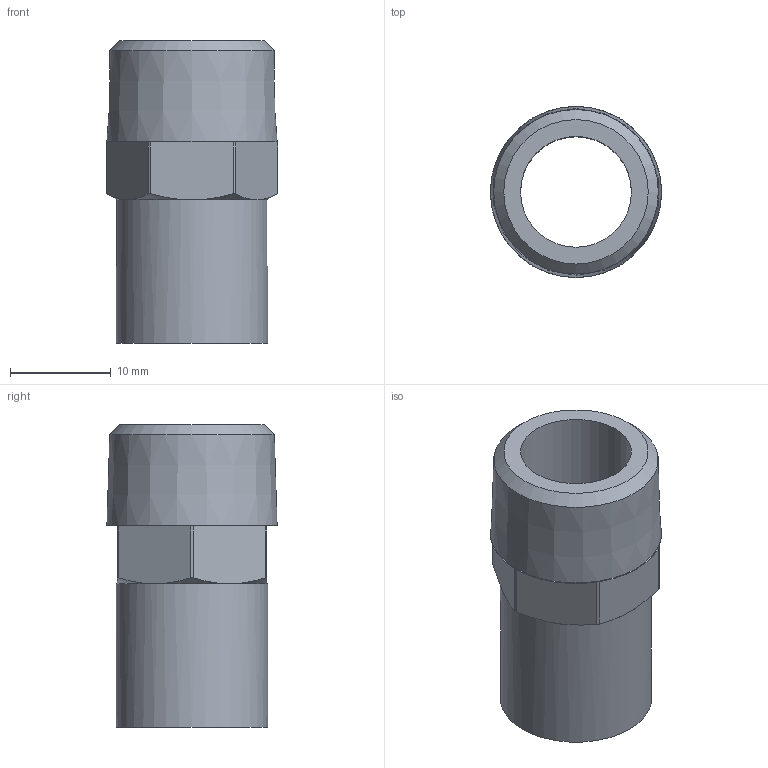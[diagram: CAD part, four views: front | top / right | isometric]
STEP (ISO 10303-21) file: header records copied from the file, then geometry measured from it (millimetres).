
FILE_DESCRIPTION(/* description */ (''),/* implementation_level */ '2;1');
FILE_NAME(/* name */ '\\LG50001\SANHA_Legnica\Engineering\Public\RYSUNKI\SANHA POLSKA\4280G\inventor\14280g_15-38(1).stp',/* time_stamp */ '2017-01-18T11:19:06+01:00',/* author */ ('gomulka'),/* organization */ (''),/* preprocessor_version */ 'ST-DEVELOPER v15.6',/* originating_system */ 'Autodesk Inventor 2015',/* authorisation */ '');
FILE_SCHEMA (('AUTOMOTIVE_DESIGN { 1 0 10303 214 3 1 1 }'));
Length unit declared in the file: millimetre
Products named in the file (1): 14280g_12-38(1)
Bounding box: 17 x 17 x 30 mm (x, y, z)
Volume: 2897.5 mm3; surface area: 2734.8 mm2
Topology: 1 solids, 1 shells, 37 faces, 91 edges, 56 vertices
Faces by surface type: plane 20, cone 9, cylinder 8
Full cylindrical faces by diameter (mm): 11 x1, 15 x1
Entity records: 1062 total; most frequent: CARTESIAN_POINT 200, DIRECTION 184, ORIENTED_EDGE 168, EDGE_CURVE 84, AXIS2_PLACEMENT_3D 74, VERTEX_POINT 54, EDGE_LOOP 44, FACE_OUTER_BOUND 37
